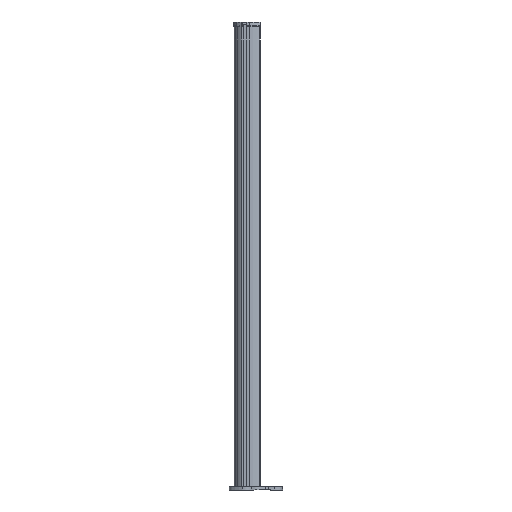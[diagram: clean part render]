
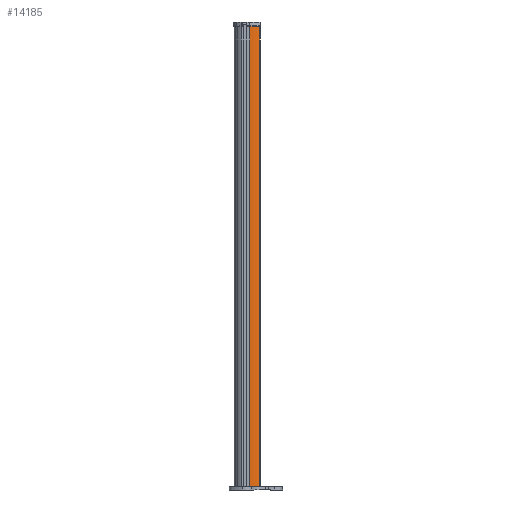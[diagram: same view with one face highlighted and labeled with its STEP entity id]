
A CAD part, left-side view. The second image highlights one B-rep face of the part: STEP entity #14185.
In plain terms, the highlighted cylindrical face has radius 55 mm (diameter 110 mm), a partial arc.
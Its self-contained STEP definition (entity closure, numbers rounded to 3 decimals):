
#580=CYLINDRICAL_SURFACE('',#15824,55.);
#1527=LINE('',#29998,#2447);
#1528=LINE('',#30000,#2448);
#2447=VECTOR('',#19730,10.);
#2448=VECTOR('',#19733,10.);
#3530=FACE_OUTER_BOUND('',#4399,.T.);
#4399=EDGE_LOOP('',(#12877,#12878,#12879,#12880));
#4673=CIRCLE('',#14569,55.);
#4791=CIRCLE('',#14690,55.);
#6011=VERTEX_POINT('',#22767);
#6012=VERTEX_POINT('',#22769);
#6211=VERTEX_POINT('',#23222);
#6212=VERTEX_POINT('',#23224);
#7408=EDGE_CURVE('',#6012,#6011,#4673,.T.);
#7622=EDGE_CURVE('',#6212,#6211,#4791,.T.);
#8977=EDGE_CURVE('',#6011,#6212,#1527,.T.);
#8978=EDGE_CURVE('',#6012,#6211,#1528,.T.);
#12877=ORIENTED_EDGE('',*,*,#7622,.T.);
#12878=ORIENTED_EDGE('',*,*,#8978,.F.);
#12879=ORIENTED_EDGE('',*,*,#7408,.T.);
#12880=ORIENTED_EDGE('',*,*,#8977,.T.);
#14185=ADVANCED_FACE('',(#3530),#580,.T.);
#14569=AXIS2_PLACEMENT_3D('',#22770,#16576,#16577);
#14690=AXIS2_PLACEMENT_3D('',#23225,#16906,#16907);
#15824=AXIS2_PLACEMENT_3D('',#29999,#19731,#19732);
#16576=DIRECTION('center_axis',(0.,0.,
-1.));
#16577=DIRECTION('ref_axis',(-1.,0.,0.));
#16906=DIRECTION('center_axis',(0.,0.,
1.));
#16907=DIRECTION('ref_axis',(-1.,0.,0.));
#19730=DIRECTION('',(0.,0.,-1.));
#19731=DIRECTION('center_axis',(0.,0.,
1.));
#19732=DIRECTION('ref_axis',(-1.,0.,0.));
#19733=DIRECTION('',(0.,0.,-1.));
#22767=CARTESIAN_POINT('',(-48.,6.5,1216.5));
#22769=CARTESIAN_POINT('',(-41.098,-20.176,1216.5));
#22770=CARTESIAN_POINT('Origin',(7.,6.5,1216.5));
#23222=CARTESIAN_POINT('',(-41.098,-20.176,9.));
#23224=CARTESIAN_POINT('',(-48.,6.5,9.));
#23225=CARTESIAN_POINT('Origin',(7.,6.5,9.));
#29998=CARTESIAN_POINT('',(-48.,6.5,191.5));
#29999=CARTESIAN_POINT('Origin',(7.,6.5,191.5));
#30000=CARTESIAN_POINT('',(-41.098,-20.176,191.5));
